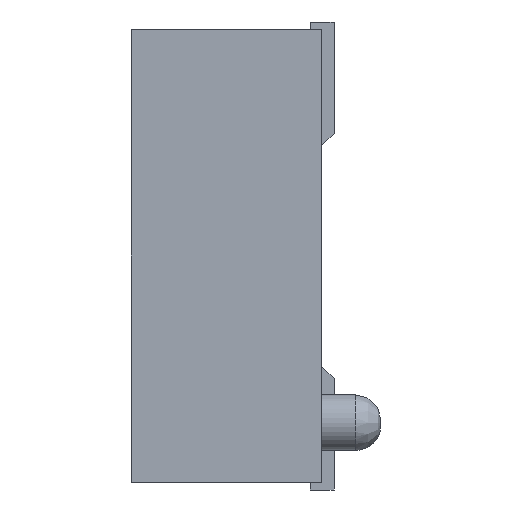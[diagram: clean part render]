
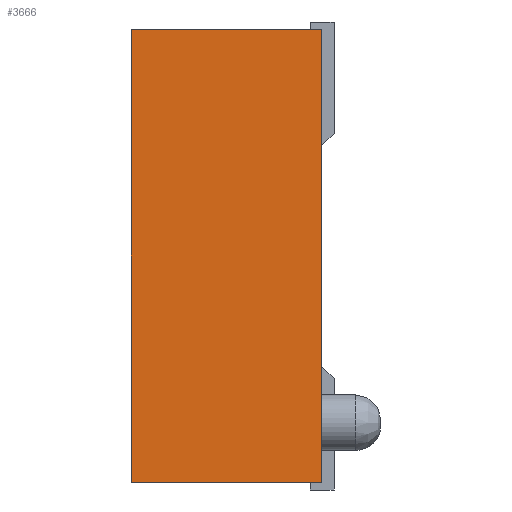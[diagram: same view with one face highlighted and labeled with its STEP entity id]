
A CAD part, left-side view. The second image highlights one B-rep face of the part: STEP entity #3666.
In plain terms, the highlighted planar face has unit normal (-1, 0, 0).
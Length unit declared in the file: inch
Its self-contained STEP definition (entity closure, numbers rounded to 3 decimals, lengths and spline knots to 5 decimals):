
#3666 = ADVANCED_FACE( '', ( #9895 ), #9896, .F. );
#9895 = FACE_OUTER_BOUND( '', #18701, .T. );
#9896 = PLANE( '', #18702 );
#18701 = EDGE_LOOP( '', ( #29423, #29424, #29425, #29426 ) );
#18702 = AXIS2_PLACEMENT_3D( '', #29427, #29428, #29429 );
#29423 = ORIENTED_EDGE( '', *, *, #57210, .T. );
#29424 = ORIENTED_EDGE( '', *, *, #57211, .F. );
#29425 = ORIENTED_EDGE( '', *, *, #55413, .F. );
#29426 = ORIENTED_EDGE( '', *, *, #57212, .T. );
#29427 = CARTESIAN_POINT( '', ( -1.00945, 0.128, -0.1425 ) );
#29428 = DIRECTION( '', ( 1., 0., 0. ) );
#29429 = DIRECTION( '', ( 0., 0., -1. ) );
#55413 = EDGE_CURVE( '', #66920, #66922, #66923, .T. );
#57210 = EDGE_CURVE( '', #70119, #70120, #70121, .T. );
#57211 = EDGE_CURVE( '', #66922, #70120, #70122, .T. );
#57212 = EDGE_CURVE( '', #66920, #70119, #70123, .T. );
#66920 = VERTEX_POINT( '', #83903 );
#66922 = VERTEX_POINT( '', #83906 );
#66923 = LINE( '', #83907, #83908 );
#70119 = VERTEX_POINT( '', #88565 );
#70120 = VERTEX_POINT( '', #88566 );
#70121 = LINE( '', #88567, #88568 );
#70122 = LINE( '', #88569, #88570 );
#70123 = LINE( '', #88571, #88572 );
#83903 = CARTESIAN_POINT( '', ( -1.00945, 0.128, -0.1425 ) );
#83906 = CARTESIAN_POINT( '', ( -1.00945, 0.128, 0.1425 ) );
#83907 = CARTESIAN_POINT( '', ( -1.00945, 0.128, -0.1425 ) );
#83908 = VECTOR( '', #109420, 39.37008 );
#88565 = CARTESIAN_POINT( '', ( -1.00945, 0.008, -0.1425 ) );
#88566 = CARTESIAN_POINT( '', ( -1.00945, 0.008, 0.1425 ) );
#88567 = CARTESIAN_POINT( '', ( -1.00945, 0.008, -0.1425 ) );
#88568 = VECTOR( '', #110885, 39.37008 );
#88569 = CARTESIAN_POINT( '', ( -1.00945, 0.128, 0.1425 ) );
#88570 = VECTOR( '', #110886, 39.37008 );
#88571 = CARTESIAN_POINT( '', ( -1.00945, 0.128, -0.1425 ) );
#88572 = VECTOR( '', #110887, 39.37008 );
#109420 = DIRECTION( '', ( 0., 0., 1. ) );
#110885 = DIRECTION( '', ( 0., 0., 1. ) );
#110886 = DIRECTION( '', ( 0., -1., 0. ) );
#110887 = DIRECTION( '', ( 0., -1., 0. ) );
